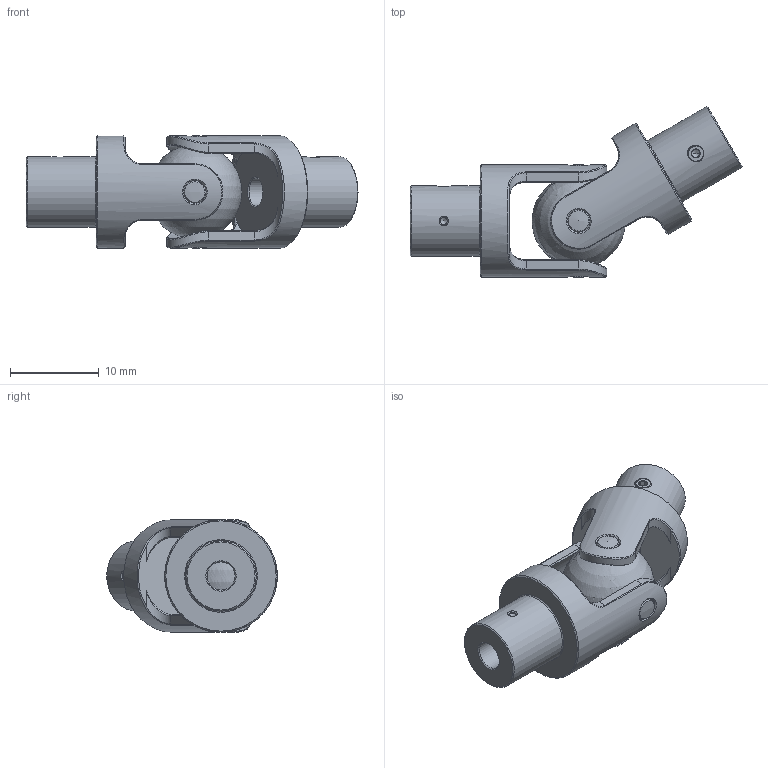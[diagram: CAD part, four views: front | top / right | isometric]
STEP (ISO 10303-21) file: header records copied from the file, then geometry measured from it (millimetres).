
FILE_DESCRIPTION(/* description */ ('Alibre Inc.'),/* implementation_level */ '2;1');
FILE_NAME(/* name */ 'export0',/* time_stamp */ '2014-08-06T15:15:27-07:00',/* author */ (''),/* organization */ (''),/* preprocessor_version */ 'ST-DEVELOPER v14',/* originating_system */ 'Alibre',/* authorisation */ '');
FILE_SCHEMA (('CONFIG_CONTROL_DESIGN'));
Length unit declared in the file: inch
Products named in the file (1): ID_1
Bounding box: 37.47 x 19.25 x 12.7 mm (x, y, z)
Volume: 1484.8 mm3; surface area: 3006.5 mm2
Topology: 2 solids, 3 shells, 213 faces, 492 edges, 281 vertices
Faces by surface type: plane 56, cylinder 53, cone 50, bspline 45, sphere 7, torus 2
Full cylindrical faces by diameter (mm): 0.794 x2, 1.575 x2, 2.54 x4, 3.17 x2, 7.938 x2, 12.7 x2
Entity records: 12910 total; most frequent: CARTESIAN_POINT 8923, ORIENTED_EDGE 864, DIRECTION 598, EDGE_CURVE 424, FACE_BOUND 276, EDGE_LOOP 268, VERTEX_POINT 266, AXIS2_PLACEMENT_3D 248
